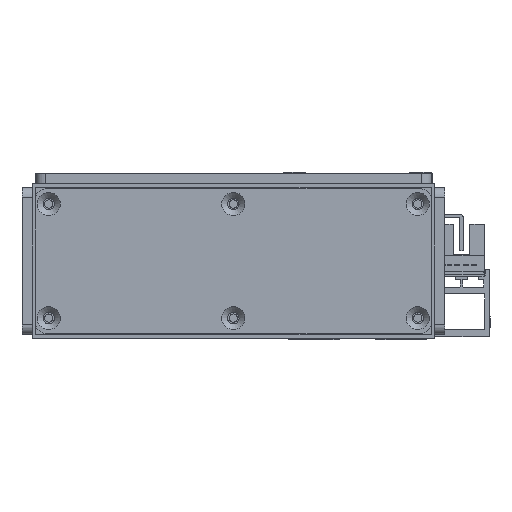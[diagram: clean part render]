
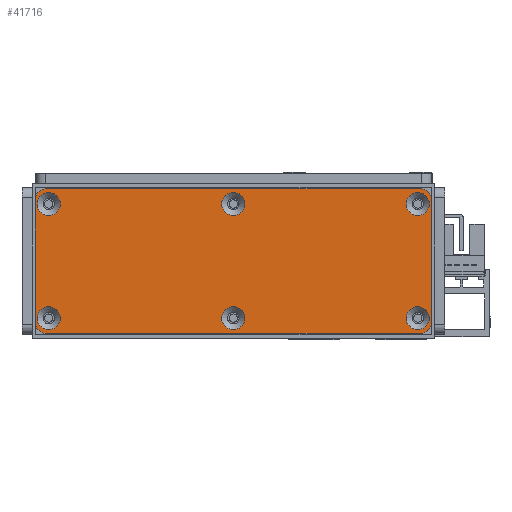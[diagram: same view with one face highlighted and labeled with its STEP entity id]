
A CAD part, front view. The second image highlights one B-rep face of the part: STEP entity #41716.
In plain terms, the highlighted planar face has unit normal (0, -1, 0) as drawn and (0, 0, 1) by its records, which use the part's own axes.
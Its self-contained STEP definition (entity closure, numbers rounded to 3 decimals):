
#894=FACE_BOUND('',#7253,.T.);
#895=FACE_BOUND('',#7254,.T.);
#896=FACE_BOUND('',#7255,.T.);
#897=FACE_BOUND('',#7256,.T.);
#898=FACE_BOUND('',#7257,.T.);
#899=FACE_BOUND('',#7258,.T.);
#2387=PLANE('',#45194);
#4740=FACE_OUTER_BOUND('',#7252,.T.);
#7252=EDGE_LOOP('',(#38537,#38538,#38539,#38540,#38541,#38542,#38543,#38544));
#7253=EDGE_LOOP('',(#38545));
#7254=EDGE_LOOP('',(#38546));
#7255=EDGE_LOOP('',(#38547));
#7256=EDGE_LOOP('',(#38548));
#7257=EDGE_LOOP('',(#38549));
#7258=EDGE_LOOP('',(#38550));
#11825=LINE('',#69649,#16475);
#11829=LINE('',#69661,#16479);
#11833=LINE('',#69673,#16483);
#11837=LINE('',#69683,#16487);
#16475=VECTOR('',#55766,10.);
#16479=VECTOR('',#55778,10.);
#16483=VECTOR('',#55790,10.);
#16487=VECTOR('',#55802,10.);
#17635=CIRCLE('',#45148,3.45);
#17638=CIRCLE('',#45153,3.45);
#17641=CIRCLE('',#45158,3.45);
#17644=CIRCLE('',#45163,3.45);
#17647=CIRCLE('',#45168,3.45);
#17650=CIRCLE('',#45173,3.45);
#17654=CIRCLE('',#45179,3.);
#17656=CIRCLE('',#45183,3.);
#17658=CIRCLE('',#45187,3.);
#17660=CIRCLE('',#45191,3.);
#21395=VERTEX_POINT('',#69577);
#21398=VERTEX_POINT('',#69587);
#21401=VERTEX_POINT('',#69597);
#21404=VERTEX_POINT('',#69607);
#21407=VERTEX_POINT('',#69617);
#21410=VERTEX_POINT('',#69627);
#21415=VERTEX_POINT('',#69640);
#21416=VERTEX_POINT('',#69642);
#21418=VERTEX_POINT('',#69648);
#21420=VERTEX_POINT('',#69654);
#21422=VERTEX_POINT('',#69660);
#21424=VERTEX_POINT('',#69666);
#21426=VERTEX_POINT('',#69672);
#21428=VERTEX_POINT('',#69678);
#27118=EDGE_CURVE('',#21395,#21395,#17635,.T.);
#27123=EDGE_CURVE('',#21398,#21398,#17638,.T.);
#27128=EDGE_CURVE('',#21401,#21401,#17641,.T.);
#27133=EDGE_CURVE('',#21404,#21404,#17644,.T.);
#27138=EDGE_CURVE('',#21407,#21407,#17647,.T.);
#27143=EDGE_CURVE('',#21410,#21410,#17650,.T.);
#27150=EDGE_CURVE('',#21416,#21415,#17654,.T.);
#27153=EDGE_CURVE('',#21418,#21416,#11825,.T.);
#27156=EDGE_CURVE('',#21420,#21418,#17656,.T.);
#27159=EDGE_CURVE('',#21422,#21420,#11829,.T.);
#27162=EDGE_CURVE('',#21424,#21422,#17658,.T.);
#27165=EDGE_CURVE('',#21426,#21424,#11833,.T.);
#27168=EDGE_CURVE('',#21428,#21426,#17660,.T.);
#27171=EDGE_CURVE('',#21415,#21428,#11837,.T.);
#38537=ORIENTED_EDGE('',*,*,#27171,.T.);
#38538=ORIENTED_EDGE('',*,*,#27168,.T.);
#38539=ORIENTED_EDGE('',*,*,#27165,.T.);
#38540=ORIENTED_EDGE('',*,*,#27162,.T.);
#38541=ORIENTED_EDGE('',*,*,#27159,.T.);
#38542=ORIENTED_EDGE('',*,*,#27156,.T.);
#38543=ORIENTED_EDGE('',*,*,#27153,.T.);
#38544=ORIENTED_EDGE('',*,*,#27150,.T.);
#38545=ORIENTED_EDGE('',*,*,#27118,.T.);
#38546=ORIENTED_EDGE('',*,*,#27123,.T.);
#38547=ORIENTED_EDGE('',*,*,#27128,.T.);
#38548=ORIENTED_EDGE('',*,*,#27133,.T.);
#38549=ORIENTED_EDGE('',*,*,#27138,.T.);
#38550=ORIENTED_EDGE('',*,*,#27143,.T.);
#41716=ADVANCED_FACE('',(#4740,#894,#895,#896,#897,#898,#899),#2387,.T.);
#45148=AXIS2_PLACEMENT_3D('',#69578,#55685,#55686);
#45153=AXIS2_PLACEMENT_3D('',#69588,#55697,#55698);
#45158=AXIS2_PLACEMENT_3D('',#69598,#55709,#55710);
#45163=AXIS2_PLACEMENT_3D('',#69608,#55721,#55722);
#45168=AXIS2_PLACEMENT_3D('',#69618,#55733,#55734);
#45173=AXIS2_PLACEMENT_3D('',#69628,#55745,#55746);
#45179=AXIS2_PLACEMENT_3D('',#69643,#55760,#55761);
#45183=AXIS2_PLACEMENT_3D('',#69655,#55772,#55773);
#45187=AXIS2_PLACEMENT_3D('',#69667,#55784,#55785);
#45191=AXIS2_PLACEMENT_3D('',#69679,#55796,#55797);
#45194=AXIS2_PLACEMENT_3D('',#69685,#55805,#55806);
#55685=DIRECTION('center_axis',(0.,0.,-1.));
#55686=DIRECTION('ref_axis',(1.,0.,0.));
#55697=DIRECTION('center_axis',(0.,0.,-1.));
#55698=DIRECTION('ref_axis',(1.,0.,0.));
#55709=DIRECTION('center_axis',(0.,0.,-1.));
#55710=DIRECTION('ref_axis',(1.,0.,0.));
#55721=DIRECTION('center_axis',(0.,0.,-1.));
#55722=DIRECTION('ref_axis',(1.,0.,0.));
#55733=DIRECTION('center_axis',(0.,0.,-1.));
#55734=DIRECTION('ref_axis',(1.,0.,0.));
#55745=DIRECTION('center_axis',(0.,0.,-1.));
#55746=DIRECTION('ref_axis',(1.,0.,0.));
#55760=DIRECTION('center_axis',(0.,0.,1.));
#55761=DIRECTION('ref_axis',(-1.,0.,0.));
#55766=DIRECTION('',(0.,1.,0.));
#55772=DIRECTION('center_axis',(0.,0.,1.));
#55773=DIRECTION('ref_axis',(0.,1.,0.));
#55778=DIRECTION('',(1.,0.,0.));
#55784=DIRECTION('center_axis',(0.,0.,1.));
#55785=DIRECTION('ref_axis',(1.,0.,0.));
#55790=DIRECTION('',(0.,-1.,0.));
#55796=DIRECTION('center_axis',(0.,0.,1.));
#55797=DIRECTION('ref_axis',(0.,-1.,0.));
#55802=DIRECTION('',(-1.,0.,0.));
#55805=DIRECTION('center_axis',(0.,0.,1.));
#55806=DIRECTION('ref_axis',(1.,0.,0.));
#69577=CARTESIAN_POINT('',(110.55,4.5,3.));
#69578=CARTESIAN_POINT('Origin',(114.,4.5,3.));
#69587=CARTESIAN_POINT('',(55.55,38.5,3.));
#69588=CARTESIAN_POINT('Origin',(59.,38.5,3.));
#69597=CARTESIAN_POINT('',(55.55,4.5,3.));
#69598=CARTESIAN_POINT('Origin',(59.,4.5,3.));
#69607=CARTESIAN_POINT('',(0.55,38.5,3.));
#69608=CARTESIAN_POINT('Origin',(4.,38.5,3.));
#69617=CARTESIAN_POINT('',(110.55,38.5,3.));
#69618=CARTESIAN_POINT('Origin',(114.,38.5,3.));
#69627=CARTESIAN_POINT('',(0.55,4.5,3.));
#69628=CARTESIAN_POINT('Origin',(4.,4.5,3.));
#69640=CARTESIAN_POINT('',(115.,43.,3.));
#69642=CARTESIAN_POINT('',(118.,40.,3.));
#69643=CARTESIAN_POINT('Origin',(115.,40.,3.));
#69648=CARTESIAN_POINT('',(118.,3.,3.));
#69649=CARTESIAN_POINT('',(118.,40.,3.));
#69654=CARTESIAN_POINT('',(115.,0.,3.));
#69655=CARTESIAN_POINT('Origin',(115.,3.,3.));
#69660=CARTESIAN_POINT('',(3.,0.,3.));
#69661=CARTESIAN_POINT('',(115.,0.,3.));
#69666=CARTESIAN_POINT('',(0.,3.,3.));
#69667=CARTESIAN_POINT('Origin',(3.,3.,3.));
#69672=CARTESIAN_POINT('',(0.,40.,3.));
#69673=CARTESIAN_POINT('',(0.,3.,3.));
#69678=CARTESIAN_POINT('',(3.,43.,3.));
#69679=CARTESIAN_POINT('Origin',(3.,40.,3.));
#69683=CARTESIAN_POINT('',(3.,43.,3.));
#69685=CARTESIAN_POINT('Origin',(59.,21.5,3.));
